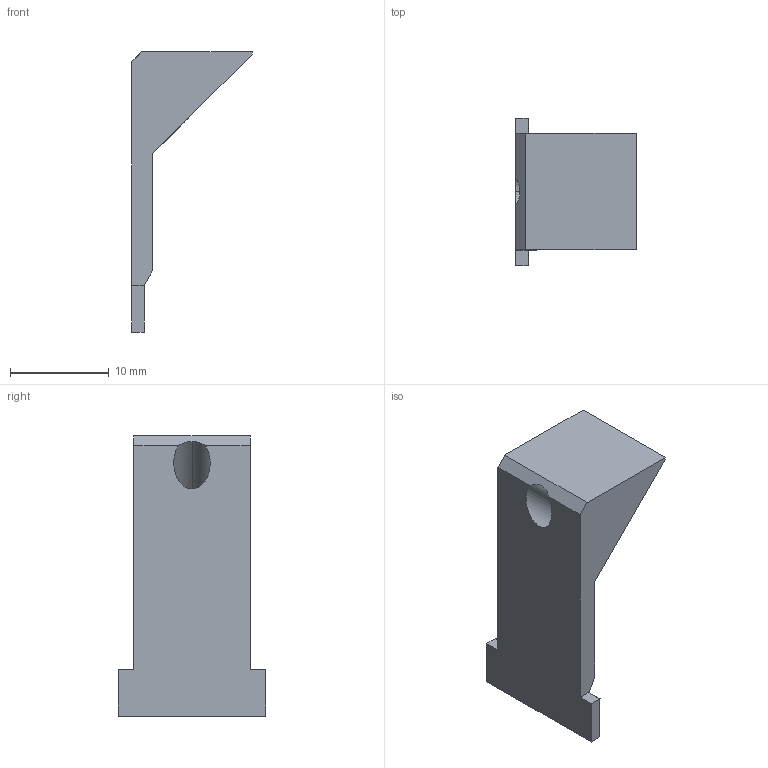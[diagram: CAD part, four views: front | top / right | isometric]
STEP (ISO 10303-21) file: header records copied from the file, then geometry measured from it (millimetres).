
FILE_DESCRIPTION( ( '' ), '1' );
FILE_NAME( 'C:/Users/dhek/Desktop/New folder/WL_L/9236461.stp', '2017-07-17T08:24:57', ( '' ), ( '' ), ' ', ' ', ' ' );
FILE_SCHEMA( ( 'automotive_design' ) );
Length unit declared in the file: millimetre
Products named in the file (1): 1
Bounding box: 12.22 x 15 x 28.44 mm (x, y, z)
Volume: 1220.4 mm3; surface area: 1182.7 mm2
Topology: 1 solids, 1 shells, 17 faces, 48 edges, 32 vertices
Faces by surface type: plane 15, cylinder 2
Entity records: 1112 total; most frequent: STYLED_ITEM 98, PRESENTATION_STYLE_ASSIGNMENT 98, CARTESIAN_POINT 98, COLOUR_RGB 98, ORIENTED_EDGE 96, DIRECTION 90, EDGE_CURVE 48, CURVE_STYLE 48
